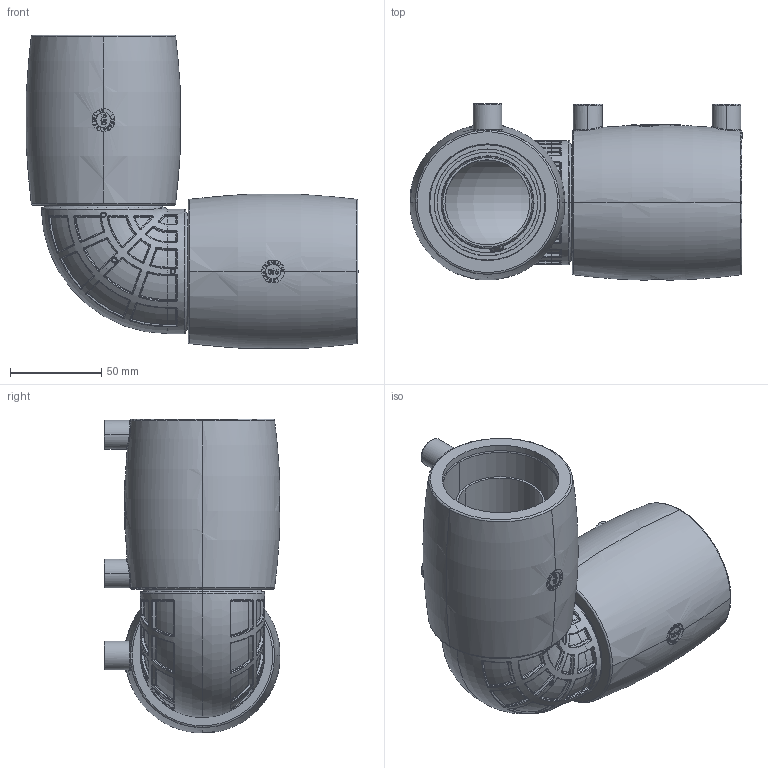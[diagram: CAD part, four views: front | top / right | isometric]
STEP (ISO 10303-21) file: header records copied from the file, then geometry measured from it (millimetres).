
FILE_DESCRIPTION (( 'STEP AP203' ), '1' );
FILE_NAME ('KP_23-63EC.STEP', '2012-01-18T12:19:20', ( '' ), ( '' ), 'SwSTEP 2.0', 'SolidWorks 2012', '' );
FILE_SCHEMA (( 'CONFIG_CONTROL_DESIGN' ));
Length unit declared in the file: millimetre
Products named in the file (1): KP_23-63EC
Bounding box: 181.75 x 96.34 x 171.69 mm (x, y, z)
Volume: 661172.6 mm3; surface area: 167766.5 mm2
Topology: 3 solids, 15 shells, 3850 faces, 10329 edges, 6635 vertices
Faces by surface type: plane 2603, bspline 424, cylinder 401, torus 293, cone 74, sphere 55
Entity records: 136981 total; most frequent: CARTESIAN_POINT 44553, ORIENTED_EDGE 20572, DIRECTION 17014, EDGE_CURVE 10286, VECTOR 7240, LINE 7240, VERTEX_POINT 6617, AXIS2_PLACEMENT_3D 4887
